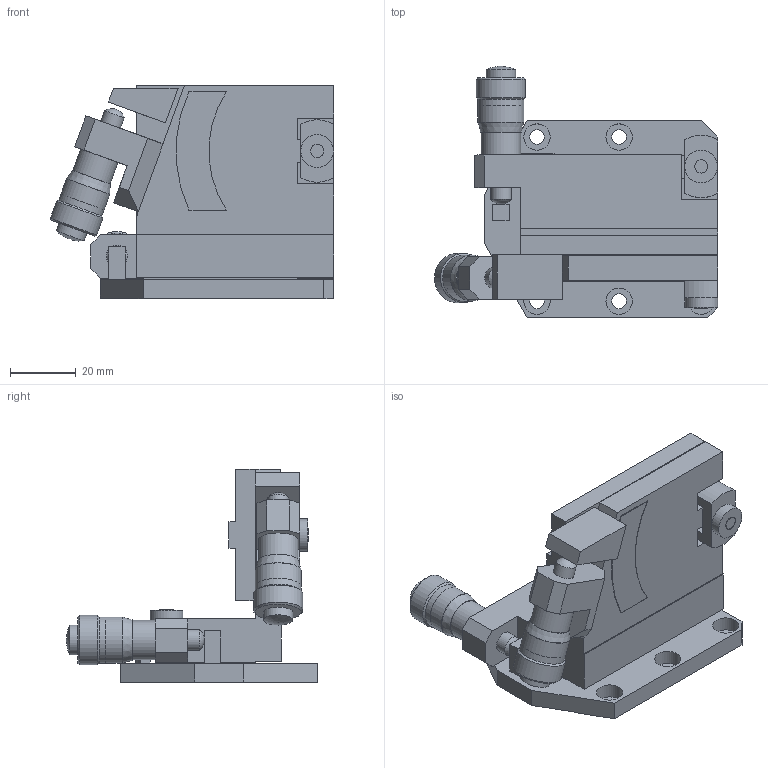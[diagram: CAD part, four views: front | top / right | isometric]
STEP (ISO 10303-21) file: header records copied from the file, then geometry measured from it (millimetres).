
FILE_DESCRIPTION( ( 'STEP AP203' ), '1' );
FILE_NAME( 'C:/Documents and Settings/09371/デスクトップ/受領データ/回転傾斜ステージ/B50-60LN.step', '2007-04-17T07:59:47', ( ' ' ), ( ' ' ), 'XStep 1.0', ' ', ' ' );
FILE_SCHEMA( ( 'CONFIG_CONTROL_DESIGN' ) );
Length unit declared in the file: millimetre
Products named in the file (5): 1; 2; 3; 4; 5
Bounding box: 86.25 x 76.5 x 65 mm (x, y, z)
Volume: 100689 mm3; surface area: 40397.3 mm2
Topology: 5 solids, 6 shells, 209 faces, 522 edges, 343 vertices
Faces by surface type: plane 130, cylinder 57, cone 18, bspline 2, sphere 2
Full cylindrical faces by diameter (mm): 1 x3, 1.6 x1, 2.5 x10, 3.5 x1, 4 x2, 4.5 x5, 6.35 x2, 6.5 x2, 8 x7, 9 x2, 10 x2, 10.4 x1, 12 x2, 12.1 x1, 13.6 x2, 14 x2, 15 x2
Entity records: 6023 total; most frequent: CARTESIAN_POINT 1036, DIRECTION 981, ORIENTED_EDGE 860, EDGE_CURVE 430, AXIS2_PLACEMENT_3D 341, EDGE_LOOP 334, VERTEX_POINT 324, LINE 299
